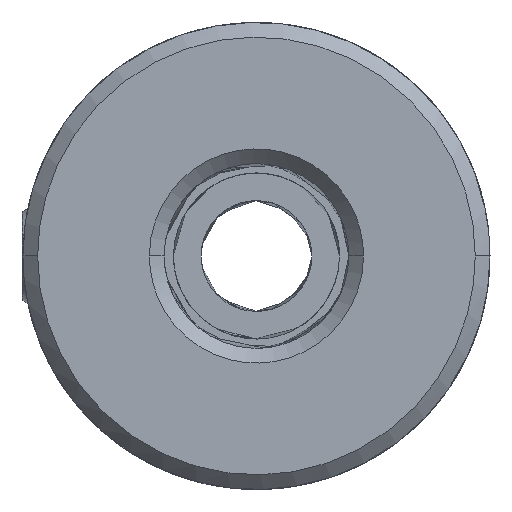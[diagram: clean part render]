
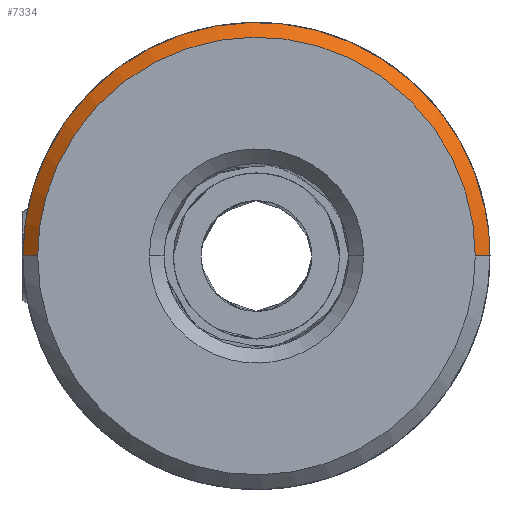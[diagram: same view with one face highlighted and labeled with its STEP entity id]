
A CAD part, front view. The second image highlights one B-rep face of the part: STEP entity #7334.
In plain terms, the highlighted free-form (B-spline) face has degree [1, 3] with [2, 13] control points.
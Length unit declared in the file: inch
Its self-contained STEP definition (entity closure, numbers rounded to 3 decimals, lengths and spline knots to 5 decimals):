
#2801=CARTESIAN_POINT('',(0.23329,-0.4498,0.));
#2802=CARTESIAN_POINT('',(0.23329,-0.4498,
0.01375));
#2803=CARTESIAN_POINT('',(0.23085,-0.4498,
0.04227));
#2804=CARTESIAN_POINT('',(0.21847,-0.4498,
0.08613));
#2805=CARTESIAN_POINT('',(0.19675,-0.4498,
0.1284));
#2806=CARTESIAN_POINT('',(0.16616,-0.4498,
0.16614));
#2807=CARTESIAN_POINT('',(0.12843,-0.4498,
0.19672));
#2808=CARTESIAN_POINT('',(0.0932,-0.4498,
0.21482));
#2809=CARTESIAN_POINT('',(0.06422,-0.4498,
0.22464));
#2810=CARTESIAN_POINT('',(0.04243,-0.4498,
0.22973));
#2811=CARTESIAN_POINT('',(0.02449,-0.4498,
0.23217));
#2812=CARTESIAN_POINT('',(0.01039,-0.4498,
0.23312));
#2813=CARTESIAN_POINT('',(0.00003,-0.4498,
0.23334));
#2814=CARTESIAN_POINT('',(-0.01034,-0.4498,
0.23312));
#2815=CARTESIAN_POINT('',(-0.02444,-0.4498,
0.23217));
#2816=CARTESIAN_POINT('',(-0.04238,-0.4498,
0.22973));
#2817=CARTESIAN_POINT('',(-0.06417,-0.4498,
0.22464));
#2818=CARTESIAN_POINT('',(-0.09315,-0.4498,
0.21482));
#2819=CARTESIAN_POINT('',(-0.12838,-0.4498,
0.19672));
#2820=CARTESIAN_POINT('',(-0.16611,-0.4498,
0.16614));
#2821=CARTESIAN_POINT('',(-0.19669,-0.4498,
0.1284));
#2822=CARTESIAN_POINT('',(-0.21842,-0.4498,
0.08613));
#2823=CARTESIAN_POINT('',(-0.2308,-0.4498,
0.04227));
#2824=CARTESIAN_POINT('',(-0.23324,-0.4498,
0.01375));
#2825=CARTESIAN_POINT('',(-0.23324,-0.4498,0.));
#2905=CARTESIAN_POINT('',(-0.23324,-0.4498,0.));
#2906=CARTESIAN_POINT('',(-0.23849,-0.44455,0.));
#2907=CARTESIAN_POINT('',(-0.24374,-0.4393,0.));
#2908=CARTESIAN_POINT('',(-0.24899,-0.43406,0.));
#2910=CARTESIAN_POINT('',(-0.24899,-0.43406,0.));
#2911=CARTESIAN_POINT('',(-0.24899,-0.43406,
0.01467));
#2912=CARTESIAN_POINT('',(-0.24638,-0.43406,
0.04512));
#2913=CARTESIAN_POINT('',(-0.23317,-0.43406,
0.09194));
#2914=CARTESIAN_POINT('',(-0.20997,-0.43406,
0.13707));
#2915=CARTESIAN_POINT('',(-0.17733,-0.43406,
0.17735));
#2916=CARTESIAN_POINT('',(-0.13704,-0.43406,
0.21));
#2917=CARTESIAN_POINT('',(-0.09944,-0.43406,
0.22933));
#2918=CARTESIAN_POINT('',(-0.0685,-0.43406,
0.23981));
#2919=CARTESIAN_POINT('',(-0.04524,-0.43406,
0.24524));
#2920=CARTESIAN_POINT('',(-0.02609,-0.43406,
0.24785));
#2921=CARTESIAN_POINT('',(-0.01104,-0.43406,
0.24885));
#2922=CARTESIAN_POINT('',(0.00003,-0.43406,
0.2491));
#2923=CARTESIAN_POINT('',(0.01109,-0.43406,
0.24885));
#2924=CARTESIAN_POINT('',(0.02614,-0.43406,
0.24785));
#2925=CARTESIAN_POINT('',(0.04529,-0.43406,
0.24524));
#2926=CARTESIAN_POINT('',(0.06856,-0.43406,0.23981));
#2927=CARTESIAN_POINT('',(0.09949,-0.43406,
0.22933));
#2928=CARTESIAN_POINT('',(0.1371,-0.43406,
0.21));
#2929=CARTESIAN_POINT('',(0.17738,-0.43406,
0.17735));
#2930=CARTESIAN_POINT('',(0.21003,-0.43406,
0.13707));
#2931=CARTESIAN_POINT('',(0.23322,-0.43406,
0.09194));
#2932=CARTESIAN_POINT('',(0.24644,-0.43406,
0.04512));
#2933=CARTESIAN_POINT('',(0.24904,-0.43406,
0.01467));
#2934=CARTESIAN_POINT('',(0.24904,-0.43406,0.));
#2936=CARTESIAN_POINT('',(0.23329,-0.4498,0.));
#2937=CARTESIAN_POINT('',(0.23854,-0.44455,0.));
#2938=CARTESIAN_POINT('',(0.24379,-0.4393,0.));
#2939=CARTESIAN_POINT('',(0.24904,-0.43406,0.));
#4589=CARTESIAN_POINT('',(0.24904,-0.43406,0.));
#4591=VERTEX_POINT('',#4589);
#4593=CARTESIAN_POINT('',(-0.24899,-0.43406,0.));
#4595=VERTEX_POINT('',#4593);
#4600=VERTEX_POINT('',#2936);
#4601=VERTEX_POINT('',#2905);
#7301=CARTESIAN_POINT('',(-0.23227,-0.45078,0.));
#7302=CARTESIAN_POINT('',(-0.23227,-0.45078,
-0.13607));
#7303=CARTESIAN_POINT('',(-0.13605,-0.45078,
-0.23229));
#7304=CARTESIAN_POINT('',(0.00003,-0.45078,
-0.23229));
#7305=CARTESIAN_POINT('',(0.1361,-0.45078,
-0.23229));
#7306=CARTESIAN_POINT('',(0.23232,-0.45078,
-0.13607));
#7307=CARTESIAN_POINT('',(0.23232,-0.45078,0.));
#7308=CARTESIAN_POINT('',(0.23232,-0.45078,
0.13607));
#7309=CARTESIAN_POINT('',(0.1361,-0.45078,
0.23229));
#7310=CARTESIAN_POINT('',(0.00003,-0.45078,
0.23229));
#7311=CARTESIAN_POINT('',(-0.13605,-0.45078,
0.23229));
#7312=CARTESIAN_POINT('',(-0.23227,-0.45078,
0.13607));
#7313=CARTESIAN_POINT('',(-0.23227,-0.45078,0.));
#7314=CARTESIAN_POINT('',(-0.24996,-0.43308,0.));
#7315=CARTESIAN_POINT('',(-0.24996,-0.43308,
-0.14644));
#7316=CARTESIAN_POINT('',(-0.14641,-0.43308,
-0.24999));
#7317=CARTESIAN_POINT('',(0.00003,-0.43308,
-0.24999));
#7318=CARTESIAN_POINT('',(0.14647,-0.43308,
-0.24999));
#7319=CARTESIAN_POINT('',(0.25002,-0.43308,
-0.14644));
#7320=CARTESIAN_POINT('',(0.25002,-0.43308,0.));
#7321=CARTESIAN_POINT('',(0.25002,-0.43308,
0.14644));
#7322=CARTESIAN_POINT('',(0.14647,-0.43308,
0.24999));
#7323=CARTESIAN_POINT('',(0.00003,-0.43308,
0.24999));
#7324=CARTESIAN_POINT('',(-0.14641,-0.43308,
0.24999));
#7325=CARTESIAN_POINT('',(-0.24996,-0.43308,
0.14644));
#7326=CARTESIAN_POINT('',(-0.24996,-0.43308,0.));
#7327=(BOUNDED_SURFACE()B_SPLINE_SURFACE(1,3,((#7301,#7302,#7303,#7304,#7305,
#7306,#7307,#7308,#7309,#7310,#7311,#7312,#7313),(#7314,#7315,#7316,#7317,#7318,
#7319,#7320,#7321,#7322,#7323,#7324,#7325,#7326)),.UNSPECIFIED.,.F.,.T.,.F.)B_SPLINE_SURFACE_WITH_KNOTS((2,2),(4,3,3,3,4),(-0.05189,0.05189),
(-3.14159,-1.5708,0.,1.5708,3.14159),
.UNSPECIFIED.)GEOMETRIC_REPRESENTATION_ITEM()RATIONAL_B_SPLINE_SURFACE(((1.,
0.805,0.805,1.,0.805,0.805,
1.,0.805,0.805,1.,0.805,
0.805,1.),(1.,0.805,0.805,1.,
0.805,0.805,1.,0.805,0.805,
1.,0.805,0.805,1.)))REPRESENTATION_ITEM('')SURFACE(
));
#7328=ORIENTED_EDGE('',*,*,#7255,.T.);
#7329=ORIENTED_EDGE('',*,*,#7296,.T.);
#7330=ORIENTED_EDGE('',*,*,#6797,.T.);
#7331=ORIENTED_EDGE('',*,*,#7293,.F.);
#7332=EDGE_LOOP('',(#7328,#7329,#7330,#7331));
#7333=FACE_OUTER_BOUND('',#7332,.F.);
#2826=B_SPLINE_CURVE_WITH_KNOTS('',3,(#2801,#2802,#2803,#2804,#2805,#2806,#2807,
#2808,#2809,#2810,#2811,#2812,#2813,#2814,#2815,#2816,#2817,#2818,#2819,#2820,
#2821,#2822,#2823,#2824,#2825),.UNSPECIFIED.,.F.,.F.,(4,1,1,1,1,1,1,1,1,1,1,1,1,
1,1,1,1,1,1,1,1,1,4),(0.,0.0625,0.125,0.1875,0.25,0.3125,0.375,
0.40625,0.4375,0.46875,0.48438,0.5,0.51563,0.53125,0.5625,
0.59375,0.625,0.6875,0.75,0.8125,0.875,0.9375,1.),
.UNSPECIFIED.);
#2909=B_SPLINE_CURVE_WITH_KNOTS('',3,(#2905,#2906,#2907,#2908),.UNSPECIFIED.,
.F.,.F.,(4,4),(0.,1.),.UNSPECIFIED.);
#2935=B_SPLINE_CURVE_WITH_KNOTS('',3,(#2910,#2911,#2912,#2913,#2914,#2915,#2916,
#2917,#2918,#2919,#2920,#2921,#2922,#2923,#2924,#2925,#2926,#2927,#2928,#2929,
#2930,#2931,#2932,#2933,#2934),.UNSPECIFIED.,.F.,.F.,(4,1,1,1,1,1,1,1,1,1,1,1,1,
1,1,1,1,1,1,1,1,1,4),(0.,0.0625,0.125,0.1875,0.25,0.3125,0.375,
0.40625,0.4375,0.46875,0.48438,0.5,0.51563,0.53125,0.5625,
0.59375,0.625,0.6875,0.75,0.8125,0.875,0.9375,1.),
.UNSPECIFIED.);
#2940=B_SPLINE_CURVE_WITH_KNOTS('',3,(#2936,#2937,#2938,#2939),.UNSPECIFIED.,
.F.,.F.,(4,4),(0.,1.),.UNSPECIFIED.);
#6797=EDGE_CURVE('',#4595,#4591,#2935,.T.);
#7255=EDGE_CURVE('',#4600,#4601,#2826,.T.);
#7293=EDGE_CURVE('',#4600,#4591,#2940,.T.);
#7296=EDGE_CURVE('',#4601,#4595,#2909,.T.);
#7334=ADVANCED_FACE('',(#7333),#7327,.T.);
